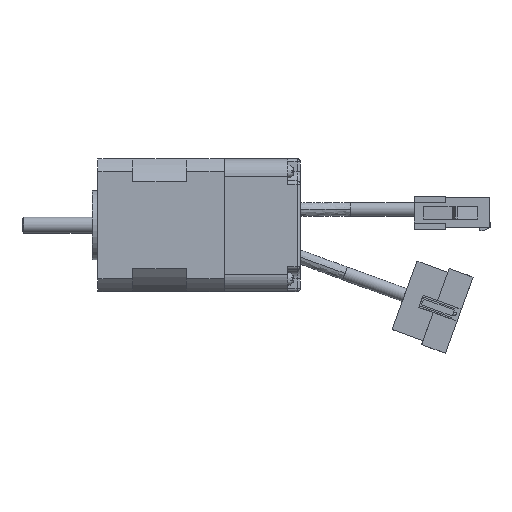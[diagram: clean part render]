
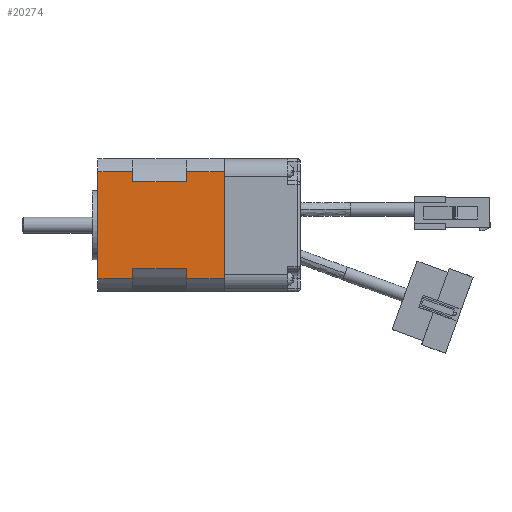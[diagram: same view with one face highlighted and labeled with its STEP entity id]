
A CAD part, front view. The second image highlights one B-rep face of the part: STEP entity #20274.
In plain terms, the highlighted planar face has unit normal (0, -1, 0).
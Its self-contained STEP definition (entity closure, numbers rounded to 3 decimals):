
#230 = VERTEX_POINT ( 'NONE', #9015 ) ;
#272 = DIRECTION ( 'NONE',  ( 1., 0., 0. ) ) ;
#322 = CARTESIAN_POINT ( 'NONE',  ( 4.029, 0., 12. ) ) ;
#1169 = VERTEX_POINT ( 'NONE', #11865 ) ;
#1205 = VECTOR ( 'NONE', #3564, 1000. ) ;
#1254 = ORIENTED_EDGE ( 'NONE', *, *, #9176, .F. ) ;
#1298 = DIRECTION ( 'NONE',  ( -1., 0., 0. ) ) ;
#1843 = ORIENTED_EDGE ( 'NONE', *, *, #15927, .F. ) ;
#2262 = VECTOR ( 'NONE', #16297, 1000. ) ;
#2375 = ORIENTED_EDGE ( 'NONE', *, *, #6864, .T. ) ;
#2455 = LINE ( 'NONE', #322, #20367 ) ;
#2946 = VERTEX_POINT ( 'NONE', #11870 ) ;
#3121 = VERTEX_POINT ( 'NONE', #3196 ) ;
#3196 = CARTESIAN_POINT ( 'NONE',  ( 4.029, 0., 0. ) ) ;
#3334 = VECTOR ( 'NONE', #19010, 1000. ) ;
#3404 = CARTESIAN_POINT ( 'NONE',  ( 37.971, 0., 40. ) ) ;
#3471 = VECTOR ( 'NONE', #9675, 1000. ) ;
#3564 = DIRECTION ( 'NONE',  ( 0., 0., -1. ) ) ;
#4038 = LINE ( 'NONE', #11429, #3471 ) ;
#4101 = VERTEX_POINT ( 'NONE', #19404 ) ;
#4417 = VERTEX_POINT ( 'NONE', #3404 ) ;
#5785 = LINE ( 'NONE', #17761, #10970 ) ;
#5859 = LINE ( 'NONE', #9188, #1205 ) ;
#6103 = EDGE_CURVE ( 'NONE', #20527, #7377, #7799, .T. ) ;
#6404 = EDGE_CURVE ( 'NONE', #10751, #3121, #5859, .T. ) ;
#6514 = VERTEX_POINT ( 'NONE', #6677 ) ;
#6677 = CARTESIAN_POINT ( 'NONE',  ( 34.766, 0., 29. ) ) ;
#6864 = EDGE_CURVE ( 'NONE', #6514, #1169, #19146, .T. ) ;
#7093 = DIRECTION ( 'NONE',  ( 1., 0., 0. ) ) ;
#7258 = VECTOR ( 'NONE', #14282, 1000. ) ;
#7377 = VERTEX_POINT ( 'NONE', #11811 ) ;
#7579 = CARTESIAN_POINT ( 'NONE',  ( 37.971, 0., 40. ) ) ;
#7799 = LINE ( 'NONE', #12587, #7258 ) ;
#8531 = ORIENTED_EDGE ( 'NONE', *, *, #6103, .T. ) ;
#8563 = LINE ( 'NONE', #17332, #3334 ) ;
#8777 = LINE ( 'NONE', #20837, #18037 ) ;
#9015 = CARTESIAN_POINT ( 'NONE',  ( 37.971, 0., 12. ) ) ;
#9045 = ORIENTED_EDGE ( 'NONE', *, *, #9917, .F. ) ;
#9176 = EDGE_CURVE ( 'NONE', #6514, #16923, #5785, .T. ) ;
#9188 = CARTESIAN_POINT ( 'NONE',  ( 4.029, 0., 40. ) ) ;
#9294 = AXIS2_PLACEMENT_3D ( 'NONE', #22066, #11761, #1298 ) ;
#9675 = DIRECTION ( 'NONE',  ( 0., 0., -1. ) ) ;
#9895 = DIRECTION ( 'NONE',  ( 1., 0., 0. ) ) ;
#9917 = EDGE_CURVE ( 'NONE', #10751, #2946, #2455, .T. ) ;
#9939 = VECTOR ( 'NONE', #18490, 1000. ) ;
#9945 = VECTOR ( 'NONE', #9895, 1000. ) ;
#10002 = CARTESIAN_POINT ( 'NONE',  ( 34.766, 0., 12. ) ) ;
#10004 = PLANE ( 'NONE',  #9294 ) ;
#10508 = DIRECTION ( 'NONE',  ( 1., 0., 0. ) ) ;
#10751 = VERTEX_POINT ( 'NONE', #21576 ) ;
#10970 = VECTOR ( 'NONE', #17696, 1000. ) ;
#11327 = LINE ( 'NONE', #14338, #15446 ) ;
#11429 = CARTESIAN_POINT ( 'NONE',  ( 37.971, 0., 40. ) ) ;
#11761 = DIRECTION ( 'NONE',  ( 0., 1., 0. ) ) ;
#11811 = CARTESIAN_POINT ( 'NONE',  ( 4.029, 0., 29. ) ) ;
#11865 = CARTESIAN_POINT ( 'NONE',  ( 37.971, 0., 29. ) ) ;
#11870 = CARTESIAN_POINT ( 'NONE',  ( 7.234, 0., 12. ) ) ;
#12569 = ORIENTED_EDGE ( 'NONE', *, *, #6404, .T. ) ;
#12587 = CARTESIAN_POINT ( 'NONE',  ( 4.029, 0., 40. ) ) ;
#12846 = VECTOR ( 'NONE', #7093, 1000. ) ;
#13269 = VERTEX_POINT ( 'NONE', #19274 ) ;
#14282 = DIRECTION ( 'NONE',  ( 0., 0., -1. ) ) ;
#14314 = EDGE_CURVE ( 'NONE', #20527, #4417, #8563, .T. ) ;
#14338 = CARTESIAN_POINT ( 'NONE',  ( 7.234, 0., 12. ) ) ;
#14452 = EDGE_LOOP ( 'NONE', ( #9045, #12569, #21398, #16620, #15181, #1254, #2375, #21908, #21302, #8531, #17545, #1843 ) ) ;
#15181 = ORIENTED_EDGE ( 'NONE', *, *, #16233, .F. ) ;
#15446 = VECTOR ( 'NONE', #19492, 1000. ) ;
#15927 = EDGE_CURVE ( 'NONE', #2946, #13269, #11327, .T. ) ;
#16048 = CARTESIAN_POINT ( 'NONE',  ( 4.029, 0., 40. ) ) ;
#16233 = EDGE_CURVE ( 'NONE', #16923, #230, #19682, .T. ) ;
#16244 = LINE ( 'NONE', #7579, #2262 ) ;
#16297 = DIRECTION ( 'NONE',  ( 0., 0., -1. ) ) ;
#16620 = ORIENTED_EDGE ( 'NONE', *, *, #20762, .F. ) ;
#16664 = EDGE_CURVE ( 'NONE', #4417, #1169, #16244, .T. ) ;
#16923 = VERTEX_POINT ( 'NONE', #10002 ) ;
#17332 = CARTESIAN_POINT ( 'NONE',  ( 4.029, 0., 40. ) ) ;
#17514 = LINE ( 'NONE', #20766, #12846 ) ;
#17545 = ORIENTED_EDGE ( 'NONE', *, *, #19336, .T. ) ;
#17696 = DIRECTION ( 'NONE',  ( 0., 0., -1. ) ) ;
#17761 = CARTESIAN_POINT ( 'NONE',  ( 34.766, 0., 12. ) ) ;
#17989 = FACE_OUTER_BOUND ( 'NONE', #14452, .T. ) ;
#18037 = VECTOR ( 'NONE', #10508, 1000. ) ;
#18490 = DIRECTION ( 'NONE',  ( 1., 0., 0. ) ) ;
#19010 = DIRECTION ( 'NONE',  ( 1., 0., 0. ) ) ;
#19146 = LINE ( 'NONE', #20234, #9939 ) ;
#19274 = CARTESIAN_POINT ( 'NONE',  ( 7.234, 0., 29. ) ) ;
#19336 = EDGE_CURVE ( 'NONE', #7377, #13269, #8777, .T. ) ;
#19373 = EDGE_CURVE ( 'NONE', #3121, #4101, #17514, .T. ) ;
#19404 = CARTESIAN_POINT ( 'NONE',  ( 37.971, 0., 0. ) ) ;
#19492 = DIRECTION ( 'NONE',  ( 0., 0., 1. ) ) ;
#19682 = LINE ( 'NONE', #21957, #9945 ) ;
#20234 = CARTESIAN_POINT ( 'NONE',  ( 4.029, 0., 29. ) ) ;
#20274 = ADVANCED_FACE ( 'NONE', ( #17989 ), #10004, .F. ) ;
#20367 = VECTOR ( 'NONE', #272, 1000. ) ;
#20527 = VERTEX_POINT ( 'NONE', #16048 ) ;
#20762 = EDGE_CURVE ( 'NONE', #230, #4101, #4038, .T. ) ;
#20766 = CARTESIAN_POINT ( 'NONE',  ( 4.029, 0., 0. ) ) ;
#20837 = CARTESIAN_POINT ( 'NONE',  ( 4.029, 0., 29. ) ) ;
#21302 = ORIENTED_EDGE ( 'NONE', *, *, #14314, .F. ) ;
#21398 = ORIENTED_EDGE ( 'NONE', *, *, #19373, .T. ) ;
#21576 = CARTESIAN_POINT ( 'NONE',  ( 4.029, 0., 12. ) ) ;
#21908 = ORIENTED_EDGE ( 'NONE', *, *, #16664, .F. ) ;
#21957 = CARTESIAN_POINT ( 'NONE',  ( 4.029, 0., 12. ) ) ;
#22066 = CARTESIAN_POINT ( 'NONE',  ( 4.029, 0., 40. ) ) ;
